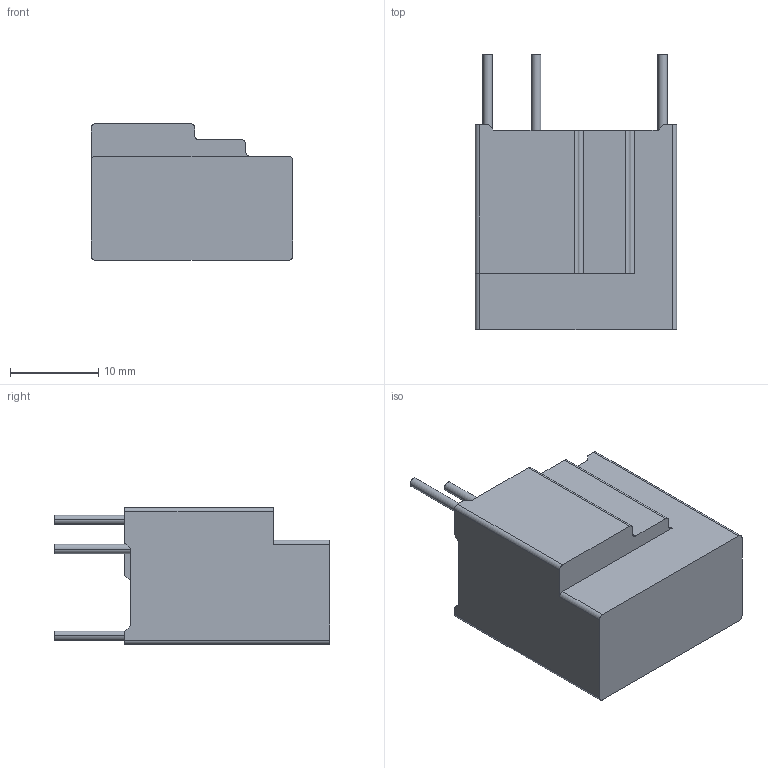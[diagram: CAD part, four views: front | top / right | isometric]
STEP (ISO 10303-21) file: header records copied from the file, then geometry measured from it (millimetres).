
FILE_DESCRIPTION((''),'2;1');
FILE_NAME('20S4701-20200616','2020-06-18T',('set'),(''),'PRO/ENGINEER BY PARAMETRIC TECHNOLOGY CORPORATION, 2012310','PRO/ENGINEER BY PARAMETRIC TECHNOLOGY CORPORATION, 2012310','');
FILE_SCHEMA(('CONFIG_CONTROL_DESIGN','SHAPE_APPEARANCE_LAYERS_GROUPS'));
Length unit declared in the file: millimetre
Products named in the file (1): 20S4701-20200616
Bounding box: 22.8 x 31.2 x 15.5 mm (x, y, z)
Volume: 1719.5 mm3; surface area: 4455 mm2
Topology: 1 solids, 2 shells, 104 faces, 291 edges, 194 vertices
Faces by surface type: plane 78, cylinder 26
Entity records: 3376 total; most frequent: CARTESIAN_POINT 589, ORIENTED_EDGE 582, DIRECTION 551, EDGE_CURVE 291, VECTOR 239, LINE 239, VERTEX_POINT 194, AXIS2_PLACEMENT_3D 156
